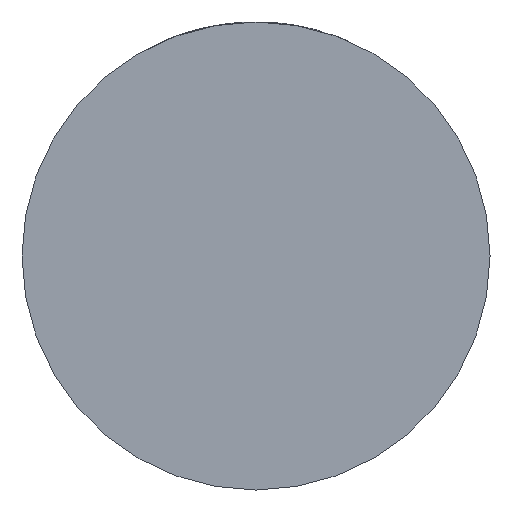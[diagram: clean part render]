
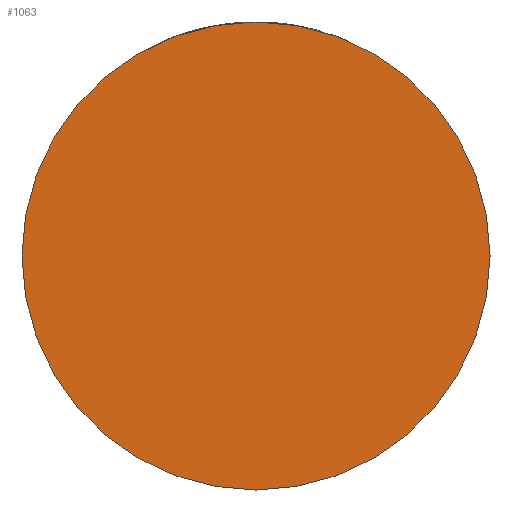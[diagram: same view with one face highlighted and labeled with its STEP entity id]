
A CAD part, front view. The second image highlights one B-rep face of the part: STEP entity #1063.
In plain terms, the highlighted planar face has unit normal (0, -1, 0).
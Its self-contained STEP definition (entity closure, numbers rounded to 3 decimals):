
#8 = CIRCLE ( 'NONE', #882, 32. ) ;
#116 = CARTESIAN_POINT ( 'NONE',  ( 0., -25., 0. ) ) ;
#158 = CARTESIAN_POINT ( 'NONE',  ( 0., -25., 0. ) ) ;
#519 = DIRECTION ( 'NONE',  ( 0., -1., 0. ) ) ;
#654 = AXIS2_PLACEMENT_3D ( 'NONE', #158, #519, #2603 ) ;
#882 = AXIS2_PLACEMENT_3D ( 'NONE', #3071, #4061, #4438 ) ;
#1063 = ADVANCED_FACE ( 'NONE', ( #2904 ), #4334, .T. ) ;
#1289 = EDGE_CURVE ( 'NONE', #1394, #3547, #8, .T. ) ;
#1394 = VERTEX_POINT ( 'NONE', #3746 ) ;
#1756 = CARTESIAN_POINT ( 'NONE',  ( 32., -25., 0. ) ) ;
#2219 = ORIENTED_EDGE ( 'NONE', *, *, #1289, .T. ) ;
#2238 = AXIS2_PLACEMENT_3D ( 'NONE', #116, #2544, #4254 ) ;
#2544 = DIRECTION ( 'NONE',  ( 0., -1., 0. ) ) ;
#2603 = DIRECTION ( 'NONE',  ( 1., 0., 0. ) ) ;
#2827 = EDGE_CURVE ( 'NONE', #3547, #1394, #3595, .T. ) ;
#2904 = FACE_OUTER_BOUND ( 'NONE', #3011, .T. ) ;
#3011 = EDGE_LOOP ( 'NONE', ( #2219, #3952 ) ) ;
#3071 = CARTESIAN_POINT ( 'NONE',  ( 0., -25., 0. ) ) ;
#3547 = VERTEX_POINT ( 'NONE', #1756 ) ;
#3595 = CIRCLE ( 'NONE', #2238, 32. ) ;
#3746 = CARTESIAN_POINT ( 'NONE',  ( -32., -25., 0. ) ) ;
#3952 = ORIENTED_EDGE ( 'NONE', *, *, #2827, .T. ) ;
#4061 = DIRECTION ( 'NONE',  ( 0., -1., 0. ) ) ;
#4254 = DIRECTION ( 'NONE',  ( 1., 0., 0. ) ) ;
#4334 = PLANE ( 'NONE',  #654 ) ;
#4438 = DIRECTION ( 'NONE',  ( 1., 0., 0. ) ) ;
